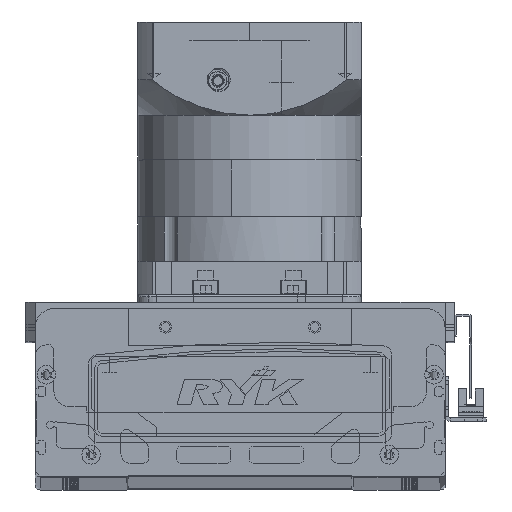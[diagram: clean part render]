
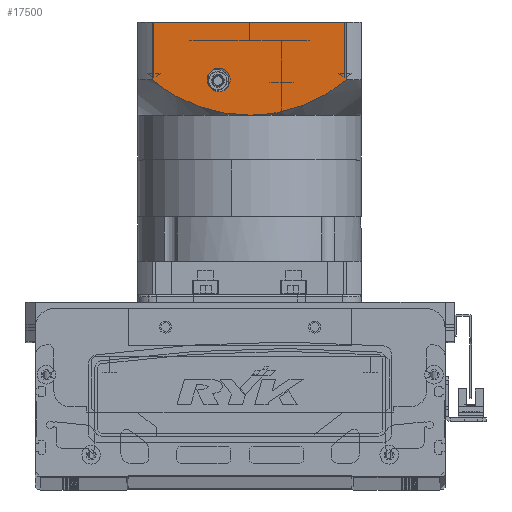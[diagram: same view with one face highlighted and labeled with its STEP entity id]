
A CAD part, top view. The second image highlights one B-rep face of the part: STEP entity #17500.
In plain terms, the highlighted planar face has unit normal (0, 0, 1) as drawn and (0, -1, 0) by its records, which use the part's own axes.
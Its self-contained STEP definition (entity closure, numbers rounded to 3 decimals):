
#723 = AXIS2_PLACEMENT_3D ( 'NONE', #12572, #42992, #55395 ) ;
#2982 = CARTESIAN_POINT ( 'NONE',  ( 41.545, -60., -111.931 ) ) ;
#3546 = CARTESIAN_POINT ( 'NONE',  ( 15.267, -60., -101.938 ) ) ;
#3615 = ORIENTED_EDGE ( 'NONE', *, *, #36988, .T. ) ;
#3717 = CARTESIAN_POINT ( 'NONE',  ( -60., -60., -150.5 ) ) ;
#5591 = DIRECTION ( 'NONE',  ( 1., 0., 0. ) ) ;
#6172 = VERTEX_POINT ( 'NONE', #12879 ) ;
#6785 = CARTESIAN_POINT ( 'NONE',  ( -8.294, -60., -100.916 ) ) ;
#6869 = VERTEX_POINT ( 'NONE', #60480 ) ;
#7325 = CARTESIAN_POINT ( 'NONE',  ( -32.118, -60., -107.084 ) ) ;
#7478 = DIRECTION ( 'NONE',  ( 0., 0., 1. ) ) ;
#7801 = CARTESIAN_POINT ( 'NONE',  ( -52.156, -60., -119.5 ) ) ;
#8425 = EDGE_CURVE ( 'NONE', #16077, #27639, #11426, .T. ) ;
#8781 = CARTESIAN_POINT ( 'NONE',  ( 16.426, -60., -102.169 ) ) ;
#9154 = CARTESIAN_POINT ( 'NONE',  ( 16.5, -60., -113.25 ) ) ;
#9214 = VECTOR ( 'NONE', #7478, 1000. ) ;
#10001 = EDGE_LOOP ( 'NONE', ( #76643, #45316, #56457, #46286, #15972 ) ) ;
#11426 = B_SPLINE_CURVE_WITH_KNOTS ( 'NONE', 3,
 ( #74288, #24910, #68774, #31187, #75067, #25706, #26242, #7325, #44868, #70111, #18843, #63806, #12832, #13113, #6785, #32507, #69053, #62749 ),
 .UNSPECIFIED., .F., .F.,
 ( 4, 2, 2, 2, 2, 2, 2, 2, 4 ),
 ( 0., 0.014, 0.018, 0.021, 0.028, 0.042, 0.046, 0.05, 0.057 ),
 .UNSPECIFIED. ) ;
#12572 = CARTESIAN_POINT ( 'NONE',  ( 16.5, -60., -119.5 ) ) ;
#12832 = CARTESIAN_POINT ( 'NONE',  ( -11.825, -60., -101.356 ) ) ;
#12879 = CARTESIAN_POINT ( 'NONE',  ( 52.156, -60., -150.5 ) ) ;
#13113 = CARTESIAN_POINT ( 'NONE',  ( -9.477, -60., -101.046 ) ) ;
#13276 = EDGE_LOOP ( 'NONE', ( #3615, #26799 ) ) ;
#14589 = VECTOR ( 'NONE', #18355, 1000. ) ;
#15131 = CARTESIAN_POINT ( 'NONE',  ( 25.577, -60., -104.596 ) ) ;
#15330 = EDGE_CURVE ( 'NONE', #45556, #28551, #74295, .T. ) ;
#15972 = ORIENTED_EDGE ( 'NONE', *, *, #8425, .F. ) ;
#16077 = VERTEX_POINT ( 'NONE', #7801 ) ;
#17500 = ADVANCED_FACE ( 'NONE', ( #49457, #20988 ), #23222, .T. ) ;
#18355 = DIRECTION ( 'NONE',  ( 0., 0., 1. ) ) ;
#18843 = CARTESIAN_POINT ( 'NONE',  ( -18.792, -60., -102.562 ) ) ;
#19745 = EDGE_CURVE ( 'NONE', #27639, #74286, #76708, .T. ) ;
#20473 = LINE ( 'NONE', #61984, #14589 ) ;
#20988 = FACE_BOUND ( 'NONE', #13276, .T. ) ;
#21366 = CARTESIAN_POINT ( 'NONE',  ( 23.329, -60., -103.886 ) ) ;
#21928 = CARTESIAN_POINT ( 'NONE',  ( 32.196, -60., -107.007 ) ) ;
#23222 = PLANE ( 'NONE',  #69738 ) ;
#24910 = CARTESIAN_POINT ( 'NONE',  ( -48.52, -60., -116.438 ) ) ;
#25706 = CARTESIAN_POINT ( 'NONE',  ( -36.409, -60., -109.113 ) ) ;
#26242 = CARTESIAN_POINT ( 'NONE',  ( -35.342, -60., -108.587 ) ) ;
#26799 = ORIENTED_EDGE ( 'NONE', *, *, #15330, .T. ) ;
#27639 = VERTEX_POINT ( 'NONE', #61892 ) ;
#27714 = CARTESIAN_POINT ( 'NONE',  ( 44.553, -60., -113.817 ) ) ;
#28551 = VERTEX_POINT ( 'NONE', #54062 ) ;
#31187 = CARTESIAN_POINT ( 'NONE',  ( -39.546, -60., -110.776 ) ) ;
#32507 = CARTESIAN_POINT ( 'NONE',  ( -4.747, -60., -100.604 ) ) ;
#33809 = AXIS2_PLACEMENT_3D ( 'NONE', #68007, #69070, #81373 ) ;
#33942 = CARTESIAN_POINT ( 'NONE',  ( 50.338, -60., -117.969 ) ) ;
#34769 = CARTESIAN_POINT ( 'NONE',  ( 4.753, -60., -100.5 ) ) ;
#36988 = EDGE_CURVE ( 'NONE', #28551, #45556, #50165, .T. ) ;
#41098 = CARTESIAN_POINT ( 'NONE',  ( 19.894, -60., -102.964 ) ) ;
#41552 = DIRECTION ( 'NONE',  ( 1., 0., 0. ) ) ;
#42550 = EDGE_CURVE ( 'NONE', #6869, #16077, #20473, .T. ) ;
#42553 = LINE ( 'NONE', #75996, #9214 ) ;
#42992 = DIRECTION ( 'NONE',  ( 0., 1., 0. ) ) ;
#44868 = CARTESIAN_POINT ( 'NONE',  ( -29.939, -60., -106.183 ) ) ;
#45316 = ORIENTED_EDGE ( 'NONE', *, *, #70421, .T. ) ;
#45556 = VERTEX_POINT ( 'NONE', #9154 ) ;
#46286 = ORIENTED_EDGE ( 'NONE', *, *, #19745, .F. ) ;
#47607 = DIRECTION ( 'NONE',  ( 0., -1., 0. ) ) ;
#47744 = LINE ( 'NONE', #68641, #50688 ) ;
#49457 = FACE_OUTER_BOUND ( 'NONE', #10001, .T. ) ;
#50165 = CIRCLE ( 'NONE', #33809, 6.25 ) ;
#50688 = VECTOR ( 'NONE', #5591, 1000. ) ;
#52550 = CARTESIAN_POINT ( 'NONE',  ( 52.156, -60., -119.5 ) ) ;
#52605 = CARTESIAN_POINT ( 'NONE',  ( 18.739, -60., -102.681 ) ) ;
#53178 = CARTESIAN_POINT ( 'NONE',  ( 48.457, -60., -116.522 ) ) ;
#54062 = CARTESIAN_POINT ( 'NONE',  ( 16.5, -60., -125.75 ) ) ;
#55395 = DIRECTION ( 'NONE',  ( 0., 0., -1. ) ) ;
#56457 = ORIENTED_EDGE ( 'NONE', *, *, #59061, .T. ) ;
#58988 = CARTESIAN_POINT ( 'NONE',  ( 36.444, -60., -108.986 ) ) ;
#59061 = EDGE_CURVE ( 'NONE', #6172, #74286, #42553, .T. ) ;
#59263 = CARTESIAN_POINT ( 'NONE',  ( 9.454, -60., -100.914 ) ) ;
#60480 = CARTESIAN_POINT ( 'NONE',  ( -52.156, -60., -150.5 ) ) ;
#61892 = CARTESIAN_POINT ( 'NONE',  ( 0., -60., -100.5 ) ) ;
#61984 = CARTESIAN_POINT ( 'NONE',  ( -52.156, -60., -97.5 ) ) ;
#62749 = CARTESIAN_POINT ( 'NONE',  ( 0., -60., -100.5 ) ) ;
#63806 = CARTESIAN_POINT ( 'NONE',  ( -12.993, -60., -101.537 ) ) ;
#65310 = CARTESIAN_POINT ( 'NONE',  ( 42.555, -60., -112.543 ) ) ;
#68007 = CARTESIAN_POINT ( 'NONE',  ( 16.5, -60., -119.5 ) ) ;
#68641 = CARTESIAN_POINT ( 'NONE',  ( -60., -60., -150.5 ) ) ;
#68774 = CARTESIAN_POINT ( 'NONE',  ( -44.656, -60., -113.73 ) ) ;
#69053 = CARTESIAN_POINT ( 'NONE',  ( -2.376, -60., -100.5 ) ) ;
#69070 = DIRECTION ( 'NONE',  ( 0., 1., 0. ) ) ;
#69738 = AXIS2_PLACEMENT_3D ( 'NONE', #3717, #47607, #41552 ) ;
#70111 = CARTESIAN_POINT ( 'NONE',  ( -23.319, -60., -103.777 ) ) ;
#70421 = EDGE_CURVE ( 'NONE', #6869, #6172, #47744, .T. ) ;
#71589 = CARTESIAN_POINT ( 'NONE',  ( 45.542, -60., -114.478 ) ) ;
#72412 = CARTESIAN_POINT ( 'NONE',  ( 0., -60., -100.5 ) ) ;
#74286 = VERTEX_POINT ( 'NONE', #52550 ) ;
#74288 = CARTESIAN_POINT ( 'NONE',  ( -52.156, -60., -119.5 ) ) ;
#74295 = CIRCLE ( 'NONE', #723, 6.25 ) ;
#75067 = CARTESIAN_POINT ( 'NONE',  ( -38.51, -60., -110.207 ) ) ;
#75996 = CARTESIAN_POINT ( 'NONE',  ( 52.156, -60., -150.5 ) ) ;
#76643 = ORIENTED_EDGE ( 'NONE', *, *, #42550, .F. ) ;
#76708 = B_SPLINE_CURVE_WITH_KNOTS ( 'NONE', 3,
 ( #72412, #34769, #59263, #3546, #8781, #52605, #41098, #21366, #15131, #21928, #58988, #2982, #65310, #27714, #71589, #53178, #33942, #77870 ),
 .UNSPECIFIED., .F., .F.,
 ( 4, 2, 2, 2, 2, 2, 2, 2, 4 ),
 ( 0., 0.014, 0.018, 0.021, 0.028, 0.042, 0.046, 0.05, 0.057 ),
 .UNSPECIFIED. ) ;
#77870 = CARTESIAN_POINT ( 'NONE',  ( 52.156, -60., -119.5 ) ) ;
#81373 = DIRECTION ( 'NONE',  ( 0., 0., -1. ) ) ;
